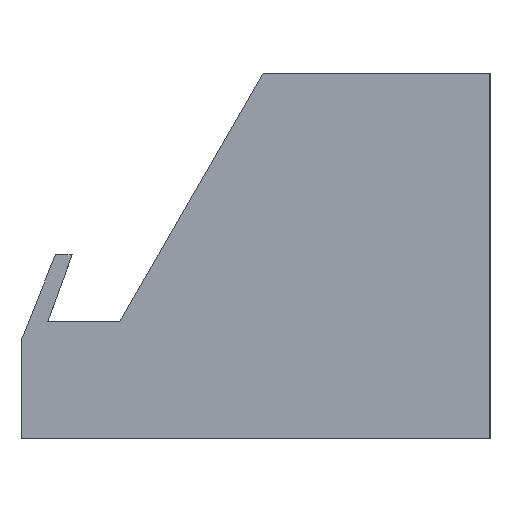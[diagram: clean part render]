
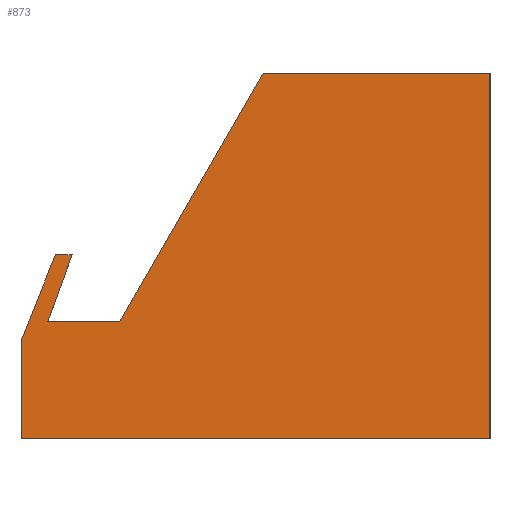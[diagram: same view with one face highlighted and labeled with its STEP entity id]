
A CAD part, left-side view. The second image highlights one B-rep face of the part: STEP entity #873.
In plain terms, the highlighted planar face has unit normal (-1, 0, 0).
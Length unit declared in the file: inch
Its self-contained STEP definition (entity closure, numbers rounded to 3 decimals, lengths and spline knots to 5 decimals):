
#27=PLANE('',#944);
#74=FACE_OUTER_BOUND('',#122,.T.);
#122=EDGE_LOOP('',(#632,#633,#634,#635,#636,#637,#638,#639,#640));
#172=LINE('',#1250,#286);
#173=LINE('',#1252,#287);
#174=LINE('',#1254,#288);
#175=LINE('',#1256,#289);
#176=LINE('',#1258,#290);
#177=LINE('',#1260,#291);
#178=LINE('',#1262,#292);
#179=LINE('',#1264,#293);
#180=LINE('',#1265,#294);
#286=VECTOR('',#1026,0.3937);
#287=VECTOR('',#1027,0.3937);
#288=VECTOR('',#1028,0.3937);
#289=VECTOR('',#1029,0.3937);
#290=VECTOR('',#1030,0.3937);
#291=VECTOR('',#1031,0.3937);
#292=VECTOR('',#1032,0.3937);
#293=VECTOR('',#1033,0.3937);
#294=VECTOR('',#1034,0.3937);
#414=VERTEX_POINT('',#1248);
#415=VERTEX_POINT('',#1249);
#416=VERTEX_POINT('',#1251);
#417=VERTEX_POINT('',#1253);
#418=VERTEX_POINT('',#1255);
#419=VERTEX_POINT('',#1257);
#420=VERTEX_POINT('',#1259);
#421=VERTEX_POINT('',#1261);
#422=VERTEX_POINT('',#1263);
#500=EDGE_CURVE('',#414,#415,#172,.T.);
#501=EDGE_CURVE('',#415,#416,#173,.T.);
#502=EDGE_CURVE('',#416,#417,#174,.T.);
#503=EDGE_CURVE('',#417,#418,#175,.T.);
#504=EDGE_CURVE('',#418,#419,#176,.T.);
#505=EDGE_CURVE('',#419,#420,#177,.T.);
#506=EDGE_CURVE('',#420,#421,#178,.T.);
#507=EDGE_CURVE('',#421,#422,#179,.T.);
#508=EDGE_CURVE('',#422,#414,#180,.T.);
#632=ORIENTED_EDGE('',*,*,#500,.T.);
#633=ORIENTED_EDGE('',*,*,#501,.T.);
#634=ORIENTED_EDGE('',*,*,#502,.T.);
#635=ORIENTED_EDGE('',*,*,#503,.T.);
#636=ORIENTED_EDGE('',*,*,#504,.T.);
#637=ORIENTED_EDGE('',*,*,#505,.T.);
#638=ORIENTED_EDGE('',*,*,#506,.T.);
#639=ORIENTED_EDGE('',*,*,#507,.T.);
#640=ORIENTED_EDGE('',*,*,#508,.T.);
#873=ADVANCED_FACE('',(#74),#27,.T.);
#944=AXIS2_PLACEMENT_3D('',#1247,#1024,#1025);
#1024=DIRECTION('center_axis',(-1.,0.,0.));
#1025=DIRECTION('ref_axis',(0.,0.,1.));
#1026=DIRECTION('',(0.,-0.342,0.94));
#1027=DIRECTION('',(0.,1.,0.));
#1028=DIRECTION('',(0.,0.371,-0.928));
#1029=DIRECTION('',(0.,0.,-1.));
#1030=DIRECTION('',(0.,-1.,0.));
#1031=DIRECTION('',(0.,0.,1.));
#1032=DIRECTION('',(0.,1.,0.));
#1033=DIRECTION('',(0.,0.5,-0.866));
#1034=DIRECTION('',(0.,1.,0.));
#1247=CARTESIAN_POINT('Origin',(-0.625,1.625,0.49115));
#1248=CARTESIAN_POINT('',(-0.625,3.18199,0.));
#1249=CARTESIAN_POINT('',(-0.625,3.,0.5));
#1250=CARTESIAN_POINT('',(-0.625,3.01199,0.46705));
#1251=CARTESIAN_POINT('',(-0.625,3.125,0.5));
#1252=CARTESIAN_POINT('',(-0.625,3.,0.5));
#1253=CARTESIAN_POINT('',(-0.625,3.375,-0.125));
#1254=CARTESIAN_POINT('',(-0.625,3.125,0.5));
#1255=CARTESIAN_POINT('',(-0.625,3.375,-0.875));
#1256=CARTESIAN_POINT('',(-0.625,3.375,-0.125));
#1257=CARTESIAN_POINT('',(-0.625,-0.125,-0.875));
#1258=CARTESIAN_POINT('',(-0.625,3.375,-0.875));
#1259=CARTESIAN_POINT('',(-0.625,-0.125,1.8573));
#1260=CARTESIAN_POINT('',(-0.625,-0.125,1.8573));
#1261=CARTESIAN_POINT('',(-0.625,1.57203,1.8573));
#1262=CARTESIAN_POINT('',(-0.625,1.57203,1.8573));
#1263=CARTESIAN_POINT('',(-0.625,2.64434,0.));
#1264=CARTESIAN_POINT('',(-0.625,2.71651,-0.125));
#1265=CARTESIAN_POINT('',(-0.625,2.3125,0.));
